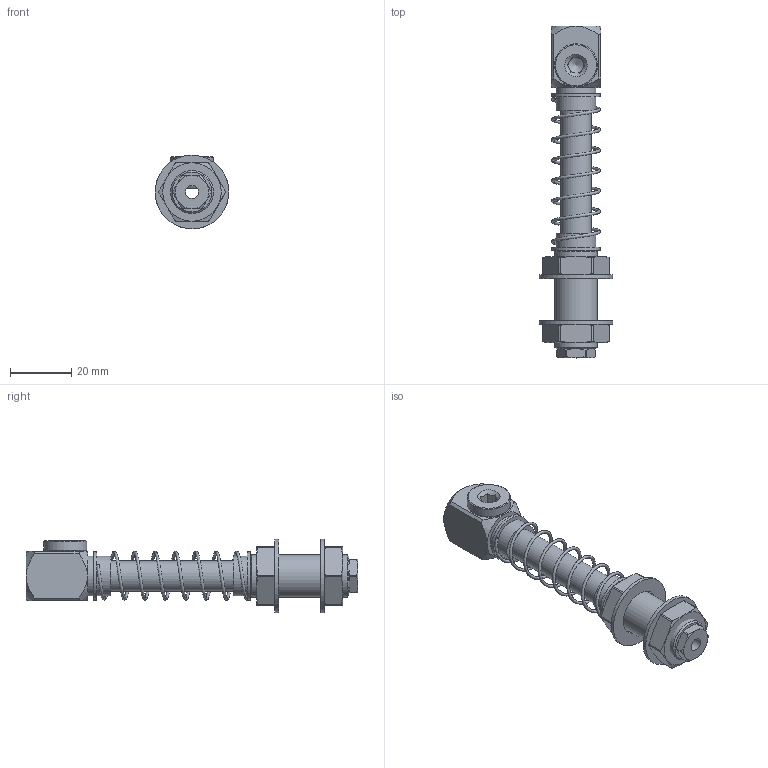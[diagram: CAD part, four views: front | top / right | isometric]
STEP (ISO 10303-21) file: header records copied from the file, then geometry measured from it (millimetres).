
FILE_DESCRIPTION(('STEP AP214'),'1');
FILE_NAME('CA.SARG.14181840.stp','2021-12-28T08:31:57',(' '),(' '),'Spatial InterOp 3D',' ',' ');
FILE_SCHEMA(('AUTOMOTIVE_DESIGN { 1 0 10303 214 1 1 1 1 }'));
Length unit declared in the file: millimetre
Products named in the file (10): CA.SARG.14181840; R.14.SCH; 05.01.001.06; M.14.8X55; CA.08.14.014; SAE.14181815.5; SAR.14181815.4; SARG.14181815.3; SAR.14181840.1; SAE.14181815.1
Assembly tree (12 placements, depth 2):
  CA.SARG.14181840
    R.14.SCH  x2
    05.01.001.06  x2
    M.14.8X55
    CA.08.14.014
    SAE.14181815.5
    SAR.14181815.4  x2
    SARG.14181815.3
    SAR.14181840.1
    SAE.14181815.1
Bounding box: 24 x 108 x 24 mm (x, y, z)
Volume: 14950.2 mm3; surface area: 16729.5 mm2
Topology: 12 solids, 12 shells, 179 faces, 400 edges, 249 vertices
Faces by surface type: plane 64, cylinder 61, cone 52, bspline 1, torus 1
Full cylindrical faces by diameter (mm): 4.2 x1, 5 x1, 5.1 x1, 6.8 x3, 8 x4, 8.2 x3, 8.8 x4, 9.728 x1, 10 x1, 10.1 x2, 10.2 x1, 12.5 x2, 12.9 x2, 13 x1, 14 x2, 15 x2, 15.8 x2, 24 x2
Entity records: 7002 total; most frequent: CARTESIAN_POINT 2386, DIRECTION 614, ORIENTED_EDGE 532, AXIS2_PLACEMENT_3D 282, EDGE_CURVE 266, EDGE_LOOP 212, VERTEX_POINT 190, FACE_OUTER_BOUND 177
